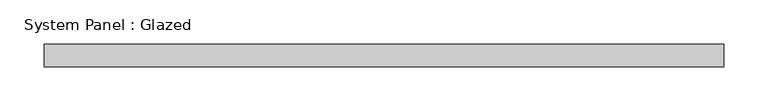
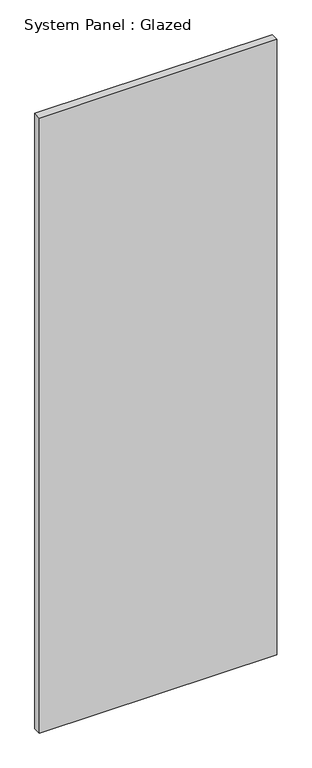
"""IFC4 building model written with IfcOpenShell, lengths in millimetres: plate geometry, System Panel : Glazed."""

import ifcopenshell
import ifcopenshell.guid

model = None  # the IFC model being written
_history = None  # IfcOwnerHistory: only IFC2X3 demands one
_inside = {}  # id of a spatial element -> (the spatial element, [elements in it])
_under = {}  # id of a project, library or spatial element -> (it, [spatial elements below it])
_declared = {}  # id of a project -> (the project, [libraries it declares])
_typed = {}  # id of a type object -> (the type object, [elements of that type])
_made_of = {}  # id of a material, layer set ... -> (it, [elements and type objects made of it])


def new_model(schema):
    """Start an empty IFC model of exactly this schema.

    Asked for "IFC4X3", IfcOpenShell would pick the latest addendum, in which some entities
    have other attributes; the version numbers below select the first issue.
    IFC2X3 requires an IfcOwnerHistory on every rooted entity: one is made here for all.
    """
    global model, _history
    if schema == "IFC4X3":
        model = ifcopenshell.file(schema_version=(4, 3, 0, 0))
    else:
        model = ifcopenshell.file(schema=schema)
    _inside.clear()
    _under.clear()
    _declared.clear()
    _typed.clear()
    _made_of.clear()
    _history = None
    if model.schema == "IFC2X3":
        org = make("IfcOrganization", Name="unknown")
        user = make(
            "IfcPersonAndOrganization",
            ThePerson=make("IfcPerson", FamilyName="unknown"),
            TheOrganization=org,
        )
        app = make(
            "IfcApplication",
            ApplicationDeveloper=org,
            Version="unknown",
            ApplicationFullName="unknown",
            ApplicationIdentifier="unknown",
        )
        _history = make(
            "IfcOwnerHistory",
            OwningUser=user,
            OwningApplication=app,
            ChangeAction="ADDED",
            CreationDate=0,
        )
    return model


def make(cls, **values):
    """One entity of the class cls with the attributes given. An attribute that is None is left unset."""
    return model.create_entity(
        cls, **{name: value for name, value in values.items() if value is not None}
    )


def rooted(cls, **values):
    """An entity with a GlobalId (a new one), such as an element, a storey or a relation."""
    return make(cls, GlobalId=ifcopenshell.guid.new(), OwnerHistory=_history, **values)


def si_unit(unit_type, name, prefix=None):
    """IfcSIUnit, for example si_unit("LENGTHUNIT", "METRE", prefix="MILLI")."""
    return make("IfcSIUnit", UnitType=unit_type, Prefix=prefix, Name=name)


def assignment(units):
    """IfcUnitAssignment: the units of a project."""
    return None if units is None else make("IfcUnitAssignment", Units=units)


def point(xyz):
    """IfcCartesianPoint."""
    return None if xyz is None else make("IfcCartesianPoint", Coordinates=xyz)


def direction(xyz):
    """IfcDirection."""
    return None if xyz is None else make("IfcDirection", DirectionRatios=xyz)


def frame(location, z_axis=None, x_axis=None):
    """IfcAxis2Placement3D, a coordinate frame: its origin and axes. An axis left out is left unset."""
    return make(
        "IfcAxis2Placement3D",
        Location=point(location),
        Axis=direction(z_axis),
        RefDirection=direction(x_axis),
    )


def origin():
    """The frame at (0, 0, 0) with its axes left unset."""
    return frame((0.0, 0.0, 0.0))


def origin_with_axes():
    """The frame at (0, 0, 0) with the z axis (0, 0, 1) and the x axis (1, 0, 0) written out."""
    return frame((0.0, 0.0, 0.0), z_axis=(0.0, 0.0, 1.0), x_axis=(1.0, 0.0, 0.0))


def place(relative_to, where):
    """IfcLocalPlacement: puts the frame where relative to a parent placement (None: the world)."""
    return make(
        "IfcLocalPlacement", PlacementRelTo=relative_to, RelativePlacement=where
    )


def context(
    kind, dimensions, precision=None, world=None, true_north=None, identifier=None
):
    """IfcGeometricRepresentationContext, for example the 3D "Model" context."""
    return make(
        "IfcGeometricRepresentationContext",
        ContextIdentifier=identifier,
        ContextType=kind,
        CoordinateSpaceDimension=dimensions,
        Precision=precision,
        WorldCoordinateSystem=world,
        TrueNorth=true_north,
    )


def project(units=None, contexts=None):
    """IfcProject with its units and contexts."""
    return rooted(
        "IfcProject",
        Name="project",
        RepresentationContexts=contexts,
        UnitsInContext=assignment(units),
    )


def spatial(cls, under=None, at=None, **own):
    """A site, building, storey or space (cls), placed at a placement, below another one or the project."""
    s = rooted(cls, ObjectPlacement=at, **own)
    if under is not None:
        _under.setdefault(under.id(), (under, []))[1].append(s)
    return s


def polyline(points):
    """IfcPolyline through the points."""
    return make("IfcPolyline", Points=[point(p) for p in points])


def outline(outer, holes=None, kind="AREA"):
    """IfcArbitraryClosedProfileDef: a profile drawn as a closed curve; with holes, ...WithVoids."""
    if holes is None:
        return make("IfcArbitraryClosedProfileDef", ProfileType=kind, OuterCurve=outer)
    return make(
        "IfcArbitraryProfileDefWithVoids",
        ProfileType=kind,
        OuterCurve=outer,
        InnerCurves=holes,
    )


def extrude(swept, where, along, depth):
    """IfcExtrudedAreaSolid: the profile swept, set in the frame where, extruded along a direction by depth."""
    return make(
        "IfcExtrudedAreaSolid",
        SweptArea=swept,
        Position=where,
        ExtrudedDirection=direction(along),
        Depth=depth,
    )


def shape(context_of_items, identifier, shape_type, items):
    """IfcShapeRepresentation: the items that make up one representation, for example the "Body"."""
    return make(
        "IfcShapeRepresentation",
        ContextOfItems=context_of_items,
        RepresentationIdentifier=identifier,
        RepresentationType=shape_type,
        Items=items,
    )


def source(mapping_origin, context_of_items, identifier, shape_type, items):
    """IfcRepresentationMap: a shape defined once, which mapped items show again and again."""
    return make(
        "IfcRepresentationMap",
        MappingOrigin=mapping_origin,
        MappedRepresentation=shape(context_of_items, identifier, shape_type, items),
    )


def transform(
    local_origin,
    x_axis=None,
    y_axis=None,
    z_axis=None,
    scale=None,
    scale2=None,
    scale3=None,
    uniform=True,
):
    """IfcCartesianTransformationOperator3D, or its non-uniform kind. x_axis, y_axis, z_axis: its Axis1, 2, 3."""
    if uniform:
        return make(
            "IfcCartesianTransformationOperator3D",
            Axis1=direction(x_axis),
            Axis2=direction(y_axis),
            LocalOrigin=point(local_origin),
            Scale=scale,
            Axis3=direction(z_axis),
        )
    return make(
        "IfcCartesianTransformationOperator3DnonUniform",
        Axis1=direction(x_axis),
        Axis2=direction(y_axis),
        LocalOrigin=point(local_origin),
        Scale=scale,
        Axis3=direction(z_axis),
        Scale2=scale2,
        Scale3=scale3,
    )


def mapped(mapping_source, mapping_target):
    """IfcMappedItem: shows the shape of a source again, moved by a transform."""
    return make(
        "IfcMappedItem", MappingSource=mapping_source, MappingTarget=mapping_target
    )


def made_of(thing, what):
    """Note that an element or type object is made of a material, layer set ...; save() writes the relation."""
    if what is not None:
        _made_of.setdefault(what.id(), (what, []))[1].append(thing)
    return thing


def element(
    cls,
    number,
    at=None,
    inside=None,
    cuts=None,
    type_object=None,
    material=None,
    context=None,
    identifier="Body",
    shape_type=None,
    held_by="IfcProductDefinitionShape",
    body=None,
    shapes=None,
    **own,
):
    """One element of the class cls, such as IfcWall. Its Tag is "e" and its number.

    at: its placement. inside: the storey or other place that contains it. cuts: it is an
    opening in that element (IfcRelVoidsElement). A single representation is given by context,
    identifier, shape_type and body (its items); several are given by shapes. held_by: the class
    of the entity that holds the representations. save() writes the other relations.
    """
    e = rooted(cls, Tag="e%d" % number, ObjectPlacement=at, **own)
    if body is not None:
        shapes = [shape(context, identifier, shape_type, body)]
    if shapes is not None:
        e.Representation = make(held_by, Representations=shapes)
    if inside is not None:
        _inside.setdefault(inside.id(), (inside, []))[1].append(e)
    if cuts is not None:
        rooted(
            "IfcRelVoidsElement", RelatingBuildingElement=cuts, RelatedOpeningElement=e
        )
    if type_object is not None:
        _typed.setdefault(type_object.id(), (type_object, []))[1].append(e)
    return made_of(e, material)


def aggregate(whole, parts):
    """IfcRelAggregates: a whole, such as a stair, and the parts it consists of."""
    return rooted("IfcRelAggregates", RelatingObject=whole, RelatedObjects=parts)


def save(model, path):
    """Write the relations noted so far, then the file.

    IfcRelAggregates (storeys below a building ...), IfcRelContainedInSpatialStructure (elements
    in a storey), IfcRelDefinesByType, IfcRelAssociatesMaterial and IfcRelDeclares: one each for
    every whole, place, type object, material and project.
    """
    for whole, parts in _under.values():
        aggregate(whole, parts)
    for where, things in _inside.values():
        rooted(
            "IfcRelContainedInSpatialStructure",
            RelatedElements=things,
            RelatingStructure=where,
        )
    for kind, things in _typed.values():
        rooted("IfcRelDefinesByType", RelatedObjects=things, RelatingType=kind)
    for what, things in _made_of.values():
        rooted("IfcRelAssociatesMaterial", RelatedObjects=things, RelatingMaterial=what)
    for by, libraries in _declared.values():
        rooted("IfcRelDeclares", RelatingContext=by, RelatedDefinitions=libraries)
    model.write(path)


def system_panel_glazed_8e231006(model_context):
    return source(origin(), model_context, "Body", "SweptSolid", [
        extrude(outline(polyline([(382.3136177, 19.05), (-382.3136177, 19.05), (-382.3136177, 44.45), (382.3136177, 44.45), (382.3136177, 19.05)])), origin_with_axes(), (0.0, 0.0, 1.0), 2095.5),
    ])


if __name__ == "__main__":
    model = new_model("IFC4")
    model_context = context("Model", 3, world=origin())
    ifc_project = project(units=[si_unit("LENGTHUNIT", "METRE", prefix="MILLI")], contexts=[model_context])
    site = spatial("IfcSite", under=ifc_project)
    building = spatial("IfcBuilding", under=site)
    placement = place(None, origin())
    system_panel_glazed_shape = system_panel_glazed_8e231006(model_context)
    element("IfcPlate", 1, ObjectType="System Panel : Glazed", at=placement, inside=building, context=model_context, shape_type="MappedRepresentation", body=[
        mapped(system_panel_glazed_shape, transform((0.0, 0.0, 0.0), x_axis=(1.0, 0.0, 0.0), y_axis=(0.0, 1.0, 0.0), z_axis=(0.0, 0.0, 1.0))),
    ])
    save(model, "model.ifc")
